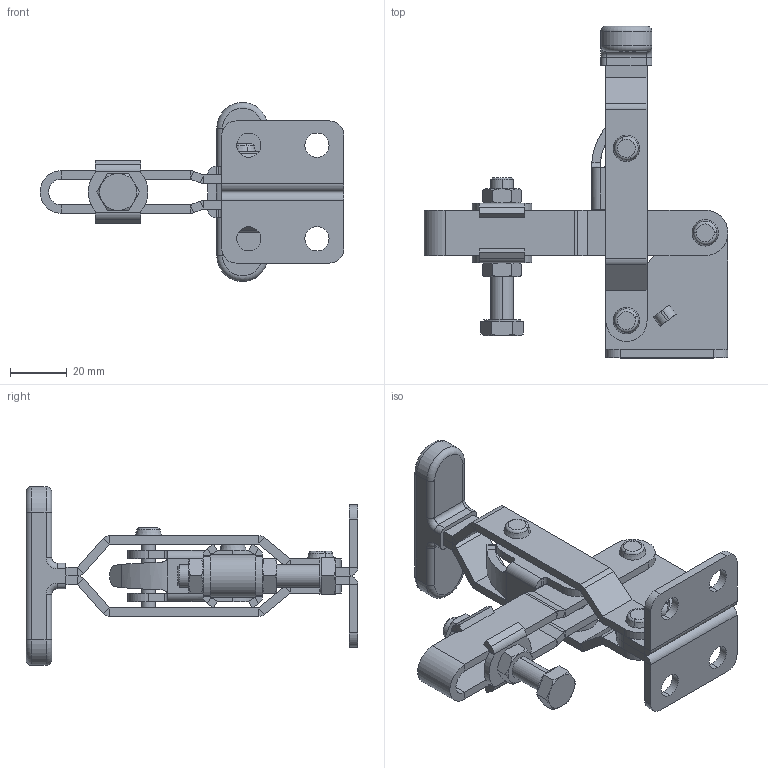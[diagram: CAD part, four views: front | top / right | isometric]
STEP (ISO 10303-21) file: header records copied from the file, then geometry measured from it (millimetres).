
FILE_DESCRIPTION (( 'STEP AP214' ), '1' );
FILE_NAME ('ISK-42P0-T1.STEP', '2024-06-20T02:41:44', ( '' ), ( '' ), 'SwSTEP 2.0', 'SolidWorks 2024', '' );
FILE_SCHEMA (( 'AUTOMOTIVE_DESIGN' ));
Length unit declared in the file: millimetre
Products named in the file (14): ISK-42P0-T1; Base-R-42P0-T1; cone head semi-tubuler rivets gb_GB_OTHERRIVETS_TYPE89 5X12; Base-L-42P0-T1; continuous thread hexagon head bolt_c_jis_JIS B 1180 Continuous thread hexagon head bolt C M8 x 50 --WN; T-Grip; Arm-42P0-T1; cone head semi-tubuler rivets gb_GB_OTHERRIVETS_TYPE89 5X28; T-Plate; hexagon nut_3 small_jis_JIS B 1181 Small hexagon nut - Class 3 Finished M8 --N; cone head semi-tubuler rivets gb_GB_OTHERRIVETS_TYPE89 5X18; Washer_D8-15; T-Handle-42P0-T1; Link
Assembly tree (17 placements, depth 2):
  ISK-42P0-T1
    Base-R-42P0-T1
    Base-L-42P0-T1
    Link
    Arm-42P0-T1
    Washer_D8-15  x2
    continuous thread hexagon head bolt_c_jis_JIS B 1180 Continuous thread hexagon head bolt C M8 x 50 --WN
    hexagon nut_3 small_jis_JIS B 1181 Small hexagon nut - Class 3 Finished M8 --N  x2
    cone head semi-tubuler rivets gb_GB_OTHERRIVETS_TYPE89 5X12  x2
    cone head semi-tubuler rivets gb_GB_OTHERRIVETS_TYPE89 5X18
    cone head semi-tubuler rivets gb_GB_OTHERRIVETS_TYPE89 5X28
    T-Handle-42P0-T1  x2
    T-Plate
    T-Grip
Bounding box: 107 x 116.8 x 63 mm (x, y, z)
Volume: 55890.8 mm3; surface area: 48519.8 mm2
Topology: 17 solids, 17 shells, 512 faces, 1119 edges, 644 vertices
Faces by surface type: plane 257, cylinder 163, cone 56, torus 32, bspline 4
Entity records: 11575 total; most frequent: CARTESIAN_POINT 2215, DIRECTION 1990, ORIENTED_EDGE 1744, EDGE_CURVE 872, AXIS2_PLACEMENT_3D 758, VERTEX_POINT 511, LINE 474, VECTOR 474
